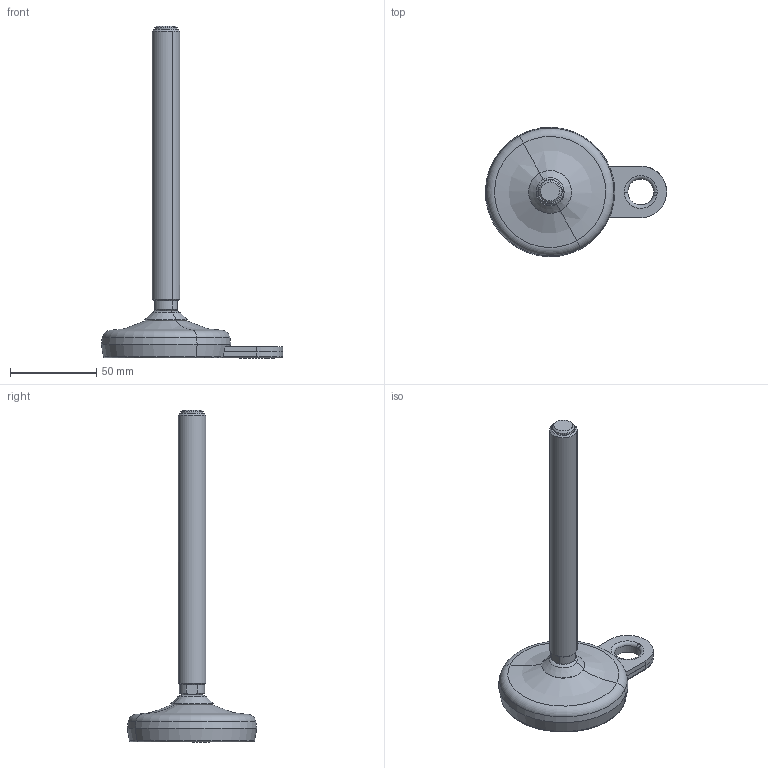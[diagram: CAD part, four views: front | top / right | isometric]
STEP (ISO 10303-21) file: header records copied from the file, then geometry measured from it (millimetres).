
FILE_DESCRIPTION(('CATIA V5 STEP Exchange'),'2;1');
FILE_NAME('X:\CODICI MOVEX\3D per clienti\3D definitivi\Part 900\P93503_01.stp','2016-05-30T14:57:58+00:00',('none'),('none'),'Version 5-6 Release 2012','CATIA V5 STEP AP203','none');
FILE_SCHEMA(('CONFIG_CONTROL_DESIGN'));
Length unit declared in the file: millimetre
Products named in the file (1): P93503_01
Assembly tree (3 placements, depth 2):
  P93503_01
    #58
    #2188
    #3378
Bounding box: 104.99 x 74.98 x 192.22 mm (x, y, z)
Volume: 112058.3 mm3; surface area: 42802.5 mm2
Topology: 5 solids, 5 shells, 136 faces, 294 edges, 180 vertices
Faces by surface type: cone 37, cylinder 35, plane 34, torus 24, revolution 6
Entity records: 3756 total; most frequent: CARTESIAN_POINT 746, ORIENTED_EDGE 588, DIRECTION 545, AXIS2_PLACEMENT_3D 315, EDGE_CURVE 294, CIRCLE 183, VERTEX_POINT 180, EDGE_LOOP 160
